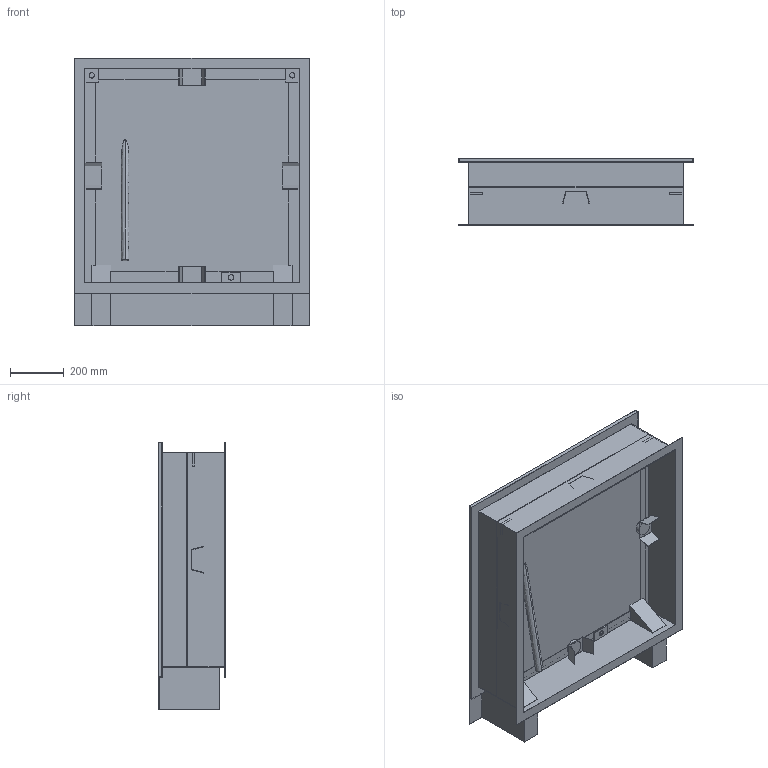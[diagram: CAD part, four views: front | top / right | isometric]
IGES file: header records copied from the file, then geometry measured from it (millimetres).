
Start section:  PTC IGES file: 51680612.igs
Global section: file name: 51680612.igs; native system: Creo Parametric by PTC Inc.; preprocessor: 2019224; author: bal; organization: Unknown; date: 20211011.150522; units: millimetre
Bounding box: 878 x 250 x 1000 mm (x, y, z)
Surface area: 4503539.1 mm2 (no closed solid volume)
Topology: 0 solids, 0 shells, 179 faces, 964 edges, 964 vertices
Faces by surface type: bspline 143, revolution 36
